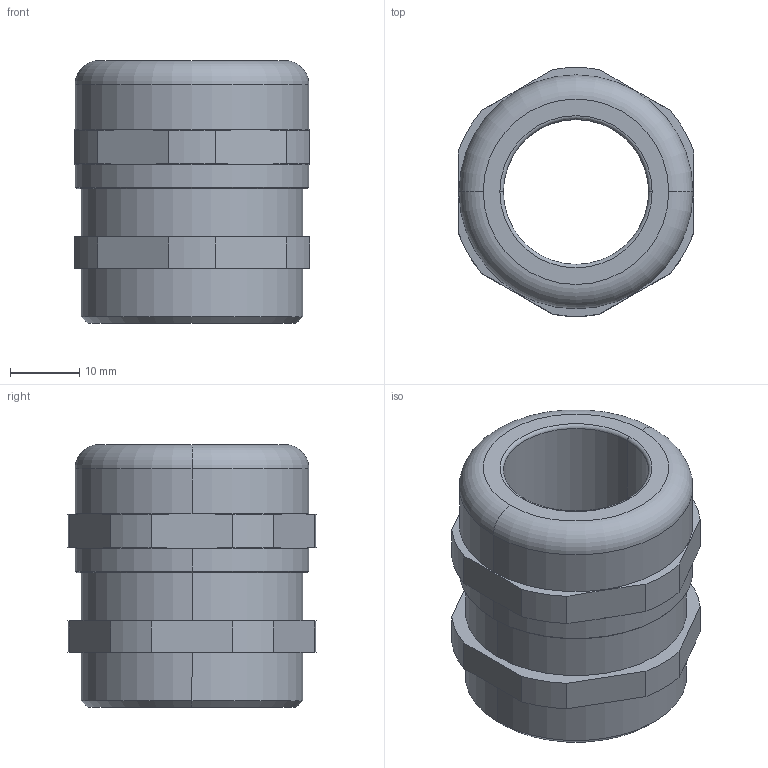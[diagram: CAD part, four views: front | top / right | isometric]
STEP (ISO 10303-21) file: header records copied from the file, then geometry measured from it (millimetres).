
FILE_DESCRIPTION (( 'STEP AP203' ), '1' );
FILE_NAME ('50.632 ES-EMV.STEP', '2006-05-24T08:53:31', ( ' ' ), ( '' ), 'SwSTEP 2.0', 'SolidWorks 2005278', '' );
FILE_SCHEMA (( 'CONFIG_CONTROL_DESIGN' ));
Length unit declared in the file: millimetre
Products named in the file (1): 50.632 ES-EMV
Bounding box: 34 x 35.93 x 38 mm (x, y, z)
Volume: 19905.2 mm3; surface area: 7829.1 mm2
Topology: 1 solids, 1 shells, 88 faces, 228 edges, 148 vertices
Faces by surface type: plane 54, cylinder 22, cone 8, torus 4
Entity records: 2777 total; most frequent: CARTESIAN_POINT 521, ORIENTED_EDGE 456, DIRECTION 446, EDGE_CURVE 228, VECTOR 156, LINE 156, VERTEX_POINT 148, AXIS2_PLACEMENT_3D 145
